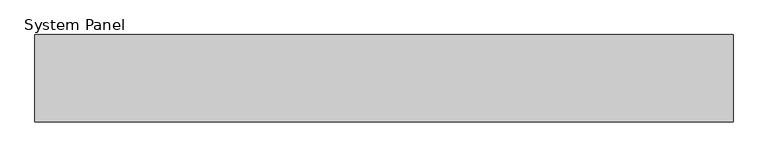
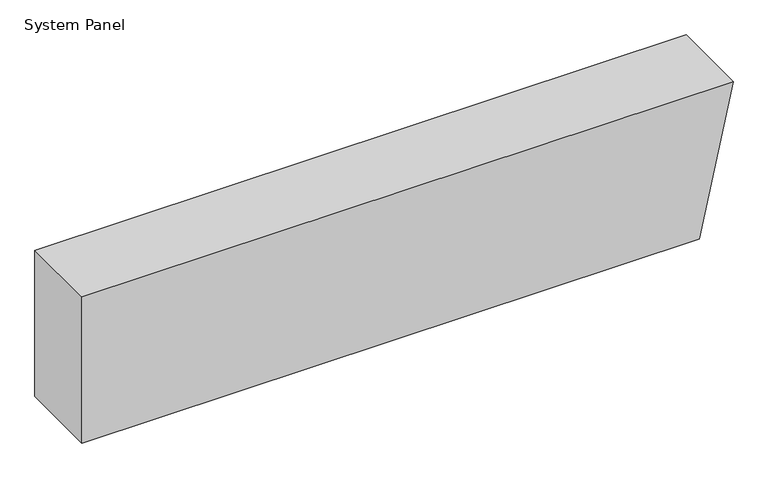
"""IFC4 building model written with IfcOpenShell, lengths in millimetres: plate geometry, System Panel : MetecnoPanel 200mm Horizontal - Plain Astro - PIR."""

from ifc_helpers import new_model, si_unit, frame, origin, place, context, project, spatial, polyline, outline, extrude, source, transform, mapped, element, save


def system_panel_e0de6927(model_context):
    return source(origin(), model_context, "Body", "SweptSolid", [
        extrude(outline(polyline([(0.0, -800.0), (0.0, 717.3970701), (379.9704237, 800.0), (379.9704237, -800.0), (0.0, -800.0)])), frame((0.0, -200.0, 0.0), z_axis=(0.0, 1.0, 0.0), x_axis=(0.0, 0.0, 1.0)), (0.0, 0.0, 1.0), 200.0),
    ])


if __name__ == "__main__":
    model = new_model("IFC4")
    model_context = context("Model", 3, world=origin())
    ifc_project = project(units=[si_unit("LENGTHUNIT", "METRE", prefix="MILLI")], contexts=[model_context])
    site = spatial("IfcSite", under=ifc_project)
    building = spatial("IfcBuilding", under=site)
    placement = place(None, origin())
    system_panel_shape = system_panel_e0de6927(model_context)
    element("IfcPlate", 1, ObjectType="System Panel : MetecnoPanel 200mm Horizontal - Plain Astro - PIR", at=placement, inside=building, context=model_context, shape_type="MappedRepresentation", body=[
        mapped(system_panel_shape, transform((0.0, 0.0, 0.0), x_axis=(1.0, 0.0, 0.0), y_axis=(0.0, 1.0, 0.0), z_axis=(0.0, 0.0, 1.0))),
    ])
    save(model, "model.ifc")
